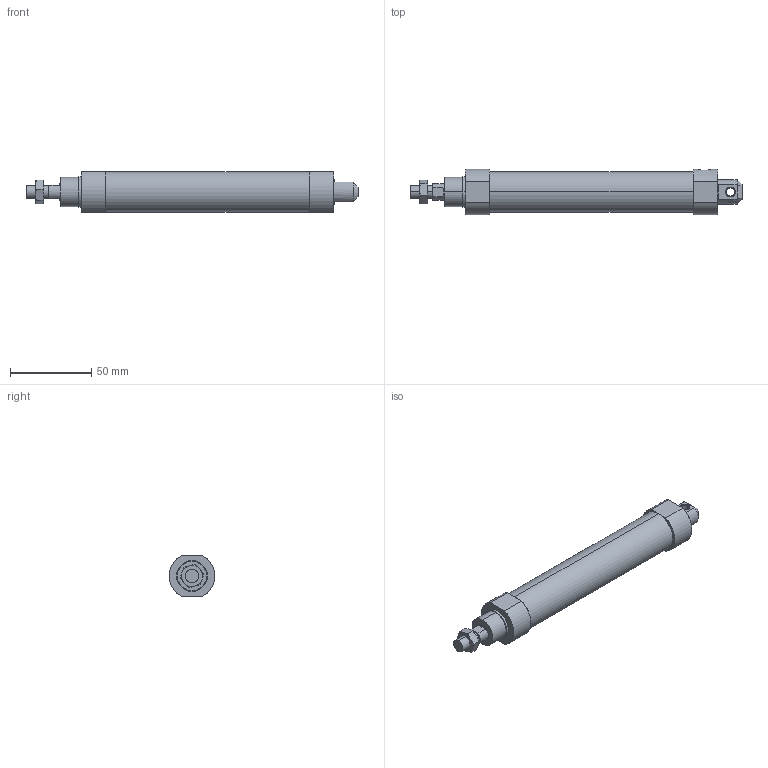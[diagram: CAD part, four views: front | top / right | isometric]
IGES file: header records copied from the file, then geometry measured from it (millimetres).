
Start section: SolidWorks IGES file using analytic representation for surfaces
Global section: file name: C:\Users\Toshiba\Desktop\J#1-20-50-C.IGS; native system: SolidWorks 2014; preprocessor: SolidWorks 2014; author: Toshiba; date: 160308.144342; units: millimetre
Bounding box: 204 x 28 x 25 mm (x, y, z)
Surface area: 16749.4 mm2 (no closed solid volume)
Topology: 0 solids, 0 shells, 75 faces, 1178 edges, 1178 vertices
Faces by surface type: bspline 47, revolution 28
